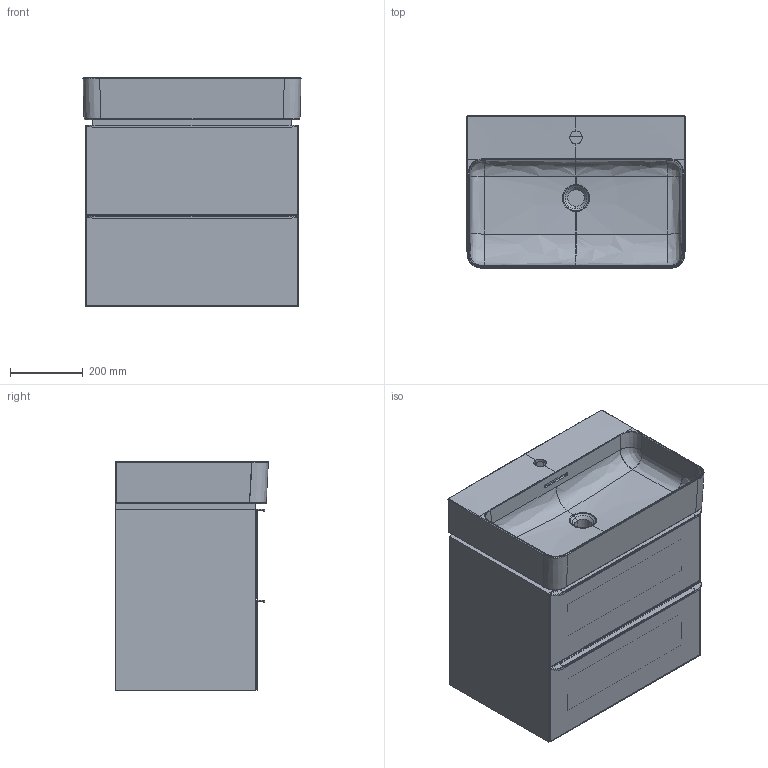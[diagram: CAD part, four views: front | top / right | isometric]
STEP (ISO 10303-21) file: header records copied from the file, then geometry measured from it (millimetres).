
FILE_DESCRIPTION(/* description */ (''),/* implementation_level */ '2;1');
FILE_NAME(/* name */ 'C:\Users\User33\Desktop\Space\3D01_410142.stp',/* time_stamp */ '2018-05-07T15:42:44+02:00',/* author */ ('User33'),/* organization */ (''),/* preprocessor_version */ 'ST-DEVELOPER v16.13',/* originating_system */ 'Autodesk Inventor 2018',/* authorisation */ '');
FILE_SCHEMA (('AUTOMOTIVE_DESIGN { 1 0 10303 214 3 1 1 }'));
Products named in the file (31): Assieme2; Parte89; Parte91; Parte93; Parte95; Parte97; Parte99; Parte101; Parte103; Parte105; Parte107; Parte109; Parte111; Parte113; Parte115; Parte117; Parte119; Parte125; Parte127; Parte129; Parte131; Parte133; Parte135; Parte137; Parte139; Parte145; Parte147; Parte149; Parte151; Parte165; Parte167
Assembly tree (30 placements, depth 2):
  Assieme2
    Parte89
    Parte91
    Parte93
    Parte95
    Parte97
    Parte99
    Parte101
    Parte103
    Parte105
    Parte107
    Parte109
    Parte111
    Parte113
    Parte115
    Parte117
    Parte119
    Parte125
    Parte127
    Parte129
    Parte131
    Parte133
    Parte135
    Parte137
    Parte139
    Parte145
    Parte147
    Parte149
    Parte151
    Parte165
    Parte167
Bounding box: 599.91 x 419.96 x 631.92 mm (x, y, z)
Volume: 21563720.6 mm3; surface area: 5262014.5 mm2
Topology: 29 solids, 499 shells, 1682 faces, 5493 edges, 4389 vertices
Faces by surface type: plane 937, cylinder 409, bspline 307, torus 15, sphere 8, cone 6
Full cylindrical faces by diameter (mm): 3 x2, 3.242 x12, 4 x12, 4.1 x4, 5.1 x4, 6 x8, 12.5 x4
Entity records: 125140 total; most frequent: CARTESIAN_POINT 76564, DIRECTION 8727, ORIENTED_EDGE 8655, EDGE_CURVE 5427, VERTEX_POINT 4377, LINE 3049, VECTOR 3049, AXIS2_PLACEMENT_3D 2839
